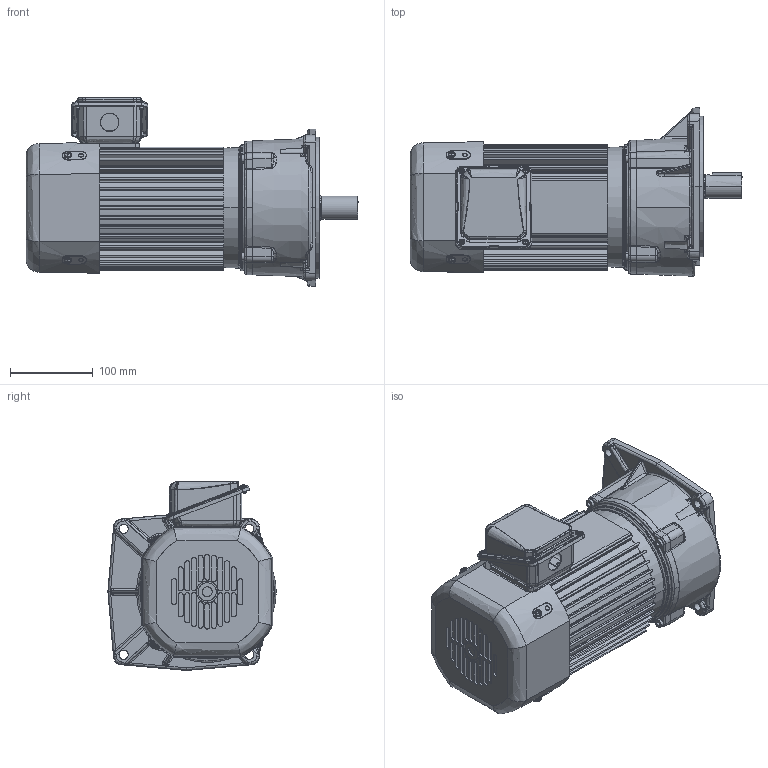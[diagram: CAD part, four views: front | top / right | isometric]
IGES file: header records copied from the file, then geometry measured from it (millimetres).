
Start section: SolidWorks IGES file using analytic representation for surfaces
Global section: file name: \\100.100.100.8\1_共有作業フォルダ\1-5_３Ｄデータ\solidworks\personal-folder\H.Nagayama\SGP1外形075~370\P1(3D)_075~370\igs\TMF2-08E-(5~25).IGS; native system: SolidWorks 2018; preprocessor: SolidWorks 2018; author: sigma-giken; date: 200806.152153; units: millimetre
Bounding box: 401 x 203.34 x 228.2 mm (x, y, z)
Surface area: 551298.8 mm2 (no closed solid volume)
Topology: 0 solids, 0 shells, 1670 faces, 20064 edges, 20022 vertices
Faces by surface type: bspline 876, revolution 794
